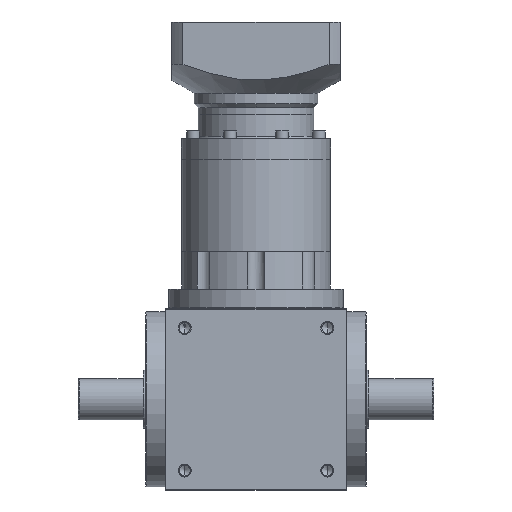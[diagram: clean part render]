
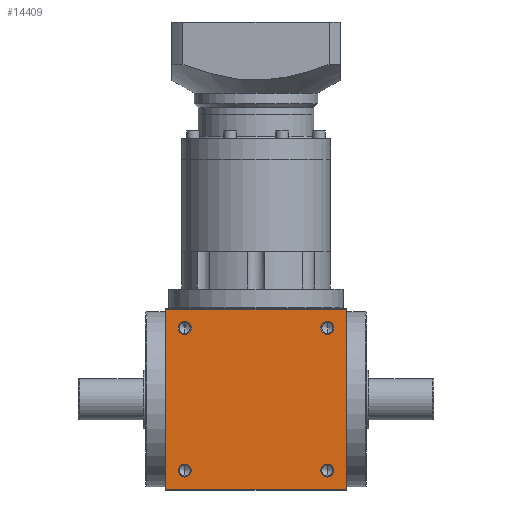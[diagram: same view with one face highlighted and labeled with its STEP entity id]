
A CAD part, front view. The second image highlights one B-rep face of the part: STEP entity #14409.
In plain terms, the highlighted planar face has unit normal (0, -1, 0).
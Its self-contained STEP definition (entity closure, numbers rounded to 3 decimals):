
#481 = EDGE_CURVE ( 'NONE', #48725, #18216, #27949, .T. ) ;
#746 = CARTESIAN_POINT ( 'NONE',  ( -70., -70., 139.5 ) ) ;
#1919 = CIRCLE ( 'NONE', #16569, 5.025 ) ;
#2009 = DIRECTION ( 'NONE',  ( 0., -1., 0. ) ) ;
#2827 = DIRECTION ( 'NONE',  ( 0., -1., 0. ) ) ;
#3159 = CARTESIAN_POINT ( 'NONE',  ( 55., -70., 125. ) ) ;
#3201 = VECTOR ( 'NONE', #7648, 1000. ) ;
#3417 = CARTESIAN_POINT ( 'NONE',  ( -55., -70., 15. ) ) ;
#3901 = VECTOR ( 'NONE', #5068, 1000. ) ;
#3911 = CIRCLE ( 'NONE', #3933, 5.025 ) ;
#3933 = AXIS2_PLACEMENT_3D ( 'NONE', #27829, #2009, #32176 ) ;
#5068 = DIRECTION ( 'NONE',  ( 1., 0., 0. ) ) ;
#5279 = FACE_BOUND ( 'NONE', #47475, .T. ) ;
#5395 = CARTESIAN_POINT ( 'NONE',  ( -70., -70., 140. ) ) ;
#6141 = EDGE_CURVE ( 'NONE', #11667, #18718, #7343, .T. ) ;
#6303 = CARTESIAN_POINT ( 'NONE',  ( -55., -70., 130.025 ) ) ;
#6428 = AXIS2_PLACEMENT_3D ( 'NONE', #32635, #32431, #32254 ) ;
#6612 = FACE_OUTER_BOUND ( 'NONE', #8882, .T. ) ;
#7175 = EDGE_CURVE ( 'NONE', #18718, #11667, #28833, .T. ) ;
#7343 = CIRCLE ( 'NONE', #35908, 5.025 ) ;
#7472 = DIRECTION ( 'NONE',  ( 0., 0., -1. ) ) ;
#7648 = DIRECTION ( 'NONE',  ( -1., 0., 0. ) ) ;
#7749 = DIRECTION ( 'NONE',  ( 0., 0., -1. ) ) ;
#8718 = EDGE_CURVE ( 'NONE', #22630, #8946, #32733, .T. ) ;
#8882 = EDGE_LOOP ( 'NONE', ( #26030, #9615, #51264, #33329 ) ) ;
#8946 = VERTEX_POINT ( 'NONE', #30157 ) ;
#9615 = ORIENTED_EDGE ( 'NONE', *, *, #12137, .F. ) ;
#11667 = VERTEX_POINT ( 'NONE', #17353 ) ;
#12137 = EDGE_CURVE ( 'NONE', #48645, #32736, #18953, .T. ) ;
#12563 = CARTESIAN_POINT ( 'NONE',  ( 55., -70., 9.975 ) ) ;
#12742 = CARTESIAN_POINT ( 'NONE',  ( 55., -70., 15. ) ) ;
#14245 = DIRECTION ( 'NONE',  ( 0., 1., 0. ) ) ;
#14409 = ADVANCED_FACE ( 'NONE', ( #38301, #26860, #49761, #5279, #6612 ), #18610, .F. ) ;
#16569 = AXIS2_PLACEMENT_3D ( 'NONE', #43273, #17499, #47607 ) ;
#16713 = LINE ( 'NONE', #746, #3901 ) ;
#17062 = DIRECTION ( 'NONE',  ( 0., 0., -1. ) ) ;
#17353 = CARTESIAN_POINT ( 'NONE',  ( -55., -70., 20.025 ) ) ;
#17499 = DIRECTION ( 'NONE',  ( 0., -1., 0. ) ) ;
#18216 = VERTEX_POINT ( 'NONE', #40295 ) ;
#18610 = PLANE ( 'NONE',  #48678 ) ;
#18718 = VERTEX_POINT ( 'NONE', #20225 ) ;
#18953 = LINE ( 'NONE', #33882, #50597 ) ;
#19527 = ORIENTED_EDGE ( 'NONE', *, *, #25659, .F. ) ;
#19840 = DIRECTION ( 'NONE',  ( 0., -1., 0. ) ) ;
#20100 = EDGE_LOOP ( 'NONE', ( #49832, #47802 ) ) ;
#20225 = CARTESIAN_POINT ( 'NONE',  ( -55., -70., 9.975 ) ) ;
#20843 = EDGE_LOOP ( 'NONE', ( #25176, #48266 ) ) ;
#20846 = VERTEX_POINT ( 'NONE', #50280 ) ;
#20999 = AXIS2_PLACEMENT_3D ( 'NONE', #28657, #2827, #32985 ) ;
#22005 = CARTESIAN_POINT ( 'NONE',  ( 55., -70., 119.975 ) ) ;
#22630 = VERTEX_POINT ( 'NONE', #22005 ) ;
#24982 = AXIS2_PLACEMENT_3D ( 'NONE', #3159, #33325, #7472 ) ;
#25176 = ORIENTED_EDGE ( 'NONE', *, *, #8718, .F. ) ;
#25584 = VERTEX_POINT ( 'NONE', #37976 ) ;
#25659 = EDGE_CURVE ( 'NONE', #20846, #34391, #30618, .T. ) ;
#26030 = ORIENTED_EDGE ( 'NONE', *, *, #34985, .F. ) ;
#26860 = FACE_BOUND ( 'NONE', #20100, .T. ) ;
#27274 = DIRECTION ( 'NONE',  ( 0., 0., 1. ) ) ;
#27829 = CARTESIAN_POINT ( 'NONE',  ( 55., -70., 15. ) ) ;
#27949 = CIRCLE ( 'NONE', #6428, 5.025 ) ;
#28657 = CARTESIAN_POINT ( 'NONE',  ( 55., -70., 125. ) ) ;
#28833 = CIRCLE ( 'NONE', #40317, 5.025 ) ;
#29144 = CARTESIAN_POINT ( 'NONE',  ( -70., -70., 0.5 ) ) ;
#29187 = EDGE_CURVE ( 'NONE', #8946, #22630, #33699, .T. ) ;
#30157 = CARTESIAN_POINT ( 'NONE',  ( 55., -70., 130.025 ) ) ;
#30436 = EDGE_CURVE ( 'NONE', #25584, #48645, #16713, .T. ) ;
#30618 = CIRCLE ( 'NONE', #37856, 5.025 ) ;
#31198 = EDGE_LOOP ( 'NONE', ( #38286, #19527 ) ) ;
#32176 = DIRECTION ( 'NONE',  ( 0., 0., -1. ) ) ;
#32187 = VECTOR ( 'NONE', #35969, 1000. ) ;
#32254 = DIRECTION ( 'NONE',  ( 0., 0., -1. ) ) ;
#32431 = DIRECTION ( 'NONE',  ( 0., -1., 0. ) ) ;
#32635 = CARTESIAN_POINT ( 'NONE',  ( -55., -70., 125. ) ) ;
#32733 = CIRCLE ( 'NONE', #20999, 5.025 ) ;
#32736 = VERTEX_POINT ( 'NONE', #44424 ) ;
#32985 = DIRECTION ( 'NONE',  ( 0., 0., -1. ) ) ;
#33325 = DIRECTION ( 'NONE',  ( 0., -1., 0. ) ) ;
#33329 = ORIENTED_EDGE ( 'NONE', *, *, #54711, .F. ) ;
#33595 = DIRECTION ( 'NONE',  ( 0., -1., 0. ) ) ;
#33699 = CIRCLE ( 'NONE', #24982, 5.025 ) ;
#33810 = VERTEX_POINT ( 'NONE', #49733 ) ;
#33882 = CARTESIAN_POINT ( 'NONE',  ( 69.5, -70., 140. ) ) ;
#34070 = DIRECTION ( 'NONE',  ( 0., 0., -1. ) ) ;
#34391 = VERTEX_POINT ( 'NONE', #12563 ) ;
#34985 = EDGE_CURVE ( 'NONE', #32736, #33810, #37587, .T. ) ;
#35908 = AXIS2_PLACEMENT_3D ( 'NONE', #45603, #19840, #49953 ) ;
#35969 = DIRECTION ( 'NONE',  ( 0., 0., 1. ) ) ;
#37480 = ORIENTED_EDGE ( 'NONE', *, *, #7175, .F. ) ;
#37587 = LINE ( 'NONE', #29144, #3201 ) ;
#37856 = AXIS2_PLACEMENT_3D ( 'NONE', #12742, #42863, #17062 ) ;
#37976 = CARTESIAN_POINT ( 'NONE',  ( -69.5, -70., 139.5 ) ) ;
#38286 = ORIENTED_EDGE ( 'NONE', *, *, #39201, .F. ) ;
#38301 = FACE_BOUND ( 'NONE', #20843, .T. ) ;
#38734 = ORIENTED_EDGE ( 'NONE', *, *, #6141, .F. ) ;
#38957 = EDGE_CURVE ( 'NONE', #18216, #48725, #1919, .T. ) ;
#39201 = EDGE_CURVE ( 'NONE', #34391, #20846, #3911, .T. ) ;
#40295 = CARTESIAN_POINT ( 'NONE',  ( -55., -70., 119.975 ) ) ;
#40317 = AXIS2_PLACEMENT_3D ( 'NONE', #3417, #33595, #7749 ) ;
#42863 = DIRECTION ( 'NONE',  ( 0., -1., 0. ) ) ;
#43273 = CARTESIAN_POINT ( 'NONE',  ( -55., -70., 125. ) ) ;
#44424 = CARTESIAN_POINT ( 'NONE',  ( 69.5, -70., 0.5 ) ) ;
#44621 = CARTESIAN_POINT ( 'NONE',  ( -69.5, -70., 140. ) ) ;
#45603 = CARTESIAN_POINT ( 'NONE',  ( -55., -70., 15. ) ) ;
#47475 = EDGE_LOOP ( 'NONE', ( #37480, #38734 ) ) ;
#47607 = DIRECTION ( 'NONE',  ( 0., 0., -1. ) ) ;
#47802 = ORIENTED_EDGE ( 'NONE', *, *, #481, .F. ) ;
#48266 = ORIENTED_EDGE ( 'NONE', *, *, #29187, .F. ) ;
#48645 = VERTEX_POINT ( 'NONE', #48912 ) ;
#48678 = AXIS2_PLACEMENT_3D ( 'NONE', #5395, #14245, #27274 ) ;
#48725 = VERTEX_POINT ( 'NONE', #6303 ) ;
#48912 = CARTESIAN_POINT ( 'NONE',  ( 69.5, -70., 139.5 ) ) ;
#49733 = CARTESIAN_POINT ( 'NONE',  ( -69.5, -70., 0.5 ) ) ;
#49761 = FACE_BOUND ( 'NONE', #31198, .T. ) ;
#49832 = ORIENTED_EDGE ( 'NONE', *, *, #38957, .F. ) ;
#49953 = DIRECTION ( 'NONE',  ( 0., 0., -1. ) ) ;
#50280 = CARTESIAN_POINT ( 'NONE',  ( 55., -70., 20.025 ) ) ;
#50597 = VECTOR ( 'NONE', #34070, 1000. ) ;
#51264 = ORIENTED_EDGE ( 'NONE', *, *, #30436, .F. ) ;
#54711 = EDGE_CURVE ( 'NONE', #33810, #25584, #55070, .T. ) ;
#55070 = LINE ( 'NONE', #44621, #32187 ) ;
